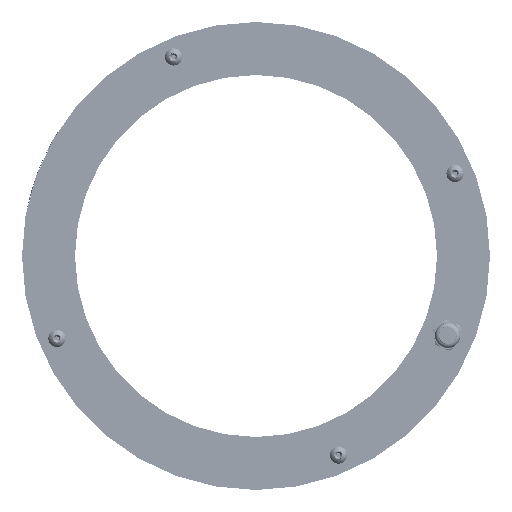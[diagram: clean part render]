
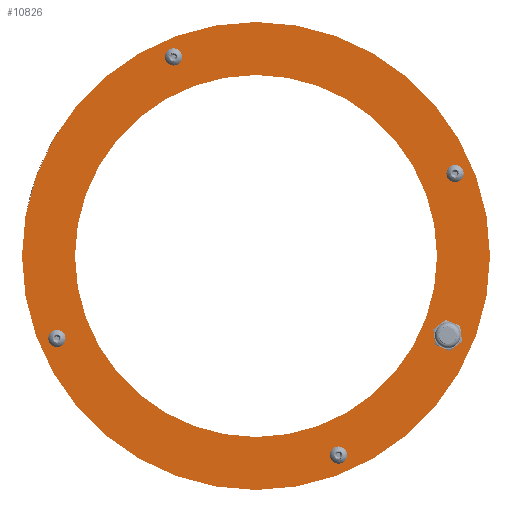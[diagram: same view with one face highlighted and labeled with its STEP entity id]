
A CAD part, front view. The second image highlights one B-rep face of the part: STEP entity #10826.
In plain terms, the highlighted planar face has unit normal (0, -1, 0).
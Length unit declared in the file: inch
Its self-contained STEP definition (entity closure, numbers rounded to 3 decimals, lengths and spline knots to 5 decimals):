
#537 = CIRCLE ( 'NONE', #7267, 4.0721 ) ;
#1016 = ORIENTED_EDGE ( 'NONE', *, *, #3004, .F. ) ;
#2303 = ORIENTED_EDGE ( 'NONE', *, *, #20368, .T. ) ;
#2395 = DIRECTION ( 'NONE',  ( 0., -1., 0. ) ) ;
#2760 = EDGE_CURVE ( 'NONE', #15414, #7817, #26251, .T. ) ;
#2803 = CIRCLE ( 'NONE', #27318, 0.06496 ) ;
#3004 = EDGE_CURVE ( 'NONE', #7817, #15414, #2803, .T. ) ;
#3154 = CIRCLE ( 'NONE', #32922, 0.06496 ) ;
#3193 = CARTESIAN_POINT ( 'NONE',  ( -1.43506, 0., 3.39959 ) ) ;
#3219 = AXIS2_PLACEMENT_3D ( 'NONE', #23197, #28914, #4151 ) ;
#3386 = CARTESIAN_POINT ( 'NONE',  ( 0., 0., 3.1496 ) ) ;
#3635 = DIRECTION ( 'NONE',  ( 0., -1., 0. ) ) ;
#3857 = CARTESIAN_POINT ( 'NONE',  ( 3.33594, 0., -1.38179 ) ) ;
#4068 = ORIENTED_EDGE ( 'NONE', *, *, #10045, .F. ) ;
#4076 = FACE_BOUND ( 'NONE', #22949, .T. ) ;
#4151 = DIRECTION ( 'NONE',  ( 0., 0., -1. ) ) ;
#4167 = EDGE_CURVE ( 'NONE', #4383, #35299, #537, .T. ) ;
#4383 = VERTEX_POINT ( 'NONE', #26197 ) ;
#4454 = VERTEX_POINT ( 'NONE', #21951 ) ;
#4534 = AXIS2_PLACEMENT_3D ( 'NONE', #19148, #13998, #21884 ) ;
#4593 = CIRCLE ( 'NONE', #7360, 3.1496 ) ;
#4751 = DIRECTION ( 'NONE',  ( 0., -1., 0. ) ) ;
#4769 = VERTEX_POINT ( 'NONE', #32893 ) ;
#4871 = CARTESIAN_POINT ( 'NONE',  ( 1.43506, 0., -3.46455 ) ) ;
#5392 = AXIS2_PLACEMENT_3D ( 'NONE', #22378, #8412, #19532 ) ;
#5421 = VERTEX_POINT ( 'NONE', #13861 ) ;
#5905 = CIRCLE ( 'NONE', #31001, 4.0721 ) ;
#5927 = CARTESIAN_POINT ( 'NONE',  ( 0., 0., 0. ) ) ;
#6148 = FACE_BOUND ( 'NONE', #12438, .T. ) ;
#6290 = ORIENTED_EDGE ( 'NONE', *, *, #4167, .T. ) ;
#6656 = CIRCLE ( 'NONE', #3219, 0.06496 ) ;
#6730 = AXIS2_PLACEMENT_3D ( 'NONE', #14260, #8510, #33299 ) ;
#7155 = DIRECTION ( 'NONE',  ( 0., -1., 0. ) ) ;
#7227 = CIRCLE ( 'NONE', #22542, 0.06496 ) ;
#7267 = AXIS2_PLACEMENT_3D ( 'NONE', #28680, #33797, #28438 ) ;
#7360 = AXIS2_PLACEMENT_3D ( 'NONE', #16416, #33178, #22116 ) ;
#7817 = VERTEX_POINT ( 'NONE', #12534 ) ;
#7833 = CARTESIAN_POINT ( 'NONE',  ( 1.43506, 0., -3.52951 ) ) ;
#7890 = ORIENTED_EDGE ( 'NONE', *, *, #2760, .F. ) ;
#7957 = CARTESIAN_POINT ( 'NONE',  ( 0., 0., 4.0721 ) ) ;
#8056 = DIRECTION ( 'NONE',  ( 0., 0., -1. ) ) ;
#8412 = DIRECTION ( 'NONE',  ( 0., -1., 0. ) ) ;
#8460 = DIRECTION ( 'NONE',  ( 0., -1., 0. ) ) ;
#8510 = DIRECTION ( 'NONE',  ( 0., -1., 0. ) ) ;
#8549 = ORIENTED_EDGE ( 'NONE', *, *, #19745, .F. ) ;
#8782 = CARTESIAN_POINT ( 'NONE',  ( 0., 0., -3.1496 ) ) ;
#9663 = CARTESIAN_POINT ( 'NONE',  ( 1.43506, 0., -3.46455 ) ) ;
#9845 = DIRECTION ( 'NONE',  ( 0., 0., -1. ) ) ;
#10045 = EDGE_CURVE ( 'NONE', #22944, #28834, #6656, .T. ) ;
#10497 = AXIS2_PLACEMENT_3D ( 'NONE', #13333, #2395, #8056 ) ;
#10555 = ORIENTED_EDGE ( 'NONE', *, *, #18288, .F. ) ;
#10677 = CARTESIAN_POINT ( 'NONE',  ( -3.46455, 0., -1.3701 ) ) ;
#10826 = ADVANCED_FACE ( 'NONE', ( #6148, #28774, #21518, #4076, #13418, #26214, #31739 ), #34962, .T. ) ;
#11284 = DIRECTION ( 'NONE',  ( 0., 0., -1. ) ) ;
#12401 = ORIENTED_EDGE ( 'NONE', *, *, #17599, .F. ) ;
#12438 = EDGE_LOOP ( 'NONE', ( #8549, #25148 ) ) ;
#12534 = CARTESIAN_POINT ( 'NONE',  ( 3.46455, 0., 1.50002 ) ) ;
#12632 = EDGE_LOOP ( 'NONE', ( #28462, #10555 ) ) ;
#13333 = CARTESIAN_POINT ( 'NONE',  ( -1.43506, 0., 3.46455 ) ) ;
#13369 = AXIS2_PLACEMENT_3D ( 'NONE', #29987, #30070, #32795 ) ;
#13418 = FACE_BOUND ( 'NONE', #20468, .T. ) ;
#13674 = DIRECTION ( 'NONE',  ( 0., 0., -1. ) ) ;
#13861 = CARTESIAN_POINT ( 'NONE',  ( 3.33594, 0., -1.54912 ) ) ;
#13887 = CARTESIAN_POINT ( 'NONE',  ( -3.46455, 0., -1.50002 ) ) ;
#13998 = DIRECTION ( 'NONE',  ( 0., -1., 0. ) ) ;
#14260 = CARTESIAN_POINT ( 'NONE',  ( 3.46455, 0., 1.43506 ) ) ;
#14430 = EDGE_LOOP ( 'NONE', ( #26051, #18017 ) ) ;
#15414 = VERTEX_POINT ( 'NONE', #32980 ) ;
#16186 = VERTEX_POINT ( 'NONE', #3386 ) ;
#16416 = CARTESIAN_POINT ( 'NONE',  ( 0., 0., 0. ) ) ;
#17599 = EDGE_CURVE ( 'NONE', #4454, #5421, #22760, .T. ) ;
#17960 = CIRCLE ( 'NONE', #18176, 0.06496 ) ;
#18017 = ORIENTED_EDGE ( 'NONE', *, *, #25854, .F. ) ;
#18176 = AXIS2_PLACEMENT_3D ( 'NONE', #9663, #7155, #26136 ) ;
#18288 = EDGE_CURVE ( 'NONE', #16186, #30496, #35077, .T. ) ;
#19148 = CARTESIAN_POINT ( 'NONE',  ( -1.43506, 0., 3.46455 ) ) ;
#19357 = CARTESIAN_POINT ( 'NONE',  ( 3.1496, 0., 0. ) ) ;
#19532 = DIRECTION ( 'NONE',  ( 0., 0., -1. ) ) ;
#19745 = EDGE_CURVE ( 'NONE', #32261, #4769, #7227, .T. ) ;
#20368 = EDGE_CURVE ( 'NONE', #35299, #4383, #5905, .T. ) ;
#20468 = EDGE_LOOP ( 'NONE', ( #32358, #12401 ) ) ;
#20640 = EDGE_CURVE ( 'NONE', #27614, #33447, #24664, .T. ) ;
#20791 = EDGE_LOOP ( 'NONE', ( #4068, #24491 ) ) ;
#21518 = FACE_BOUND ( 'NONE', #14430, .T. ) ;
#21884 = DIRECTION ( 'NONE',  ( 0., 0., -1. ) ) ;
#21951 = CARTESIAN_POINT ( 'NONE',  ( 3.33594, 0., -1.21447 ) ) ;
#21964 = DIRECTION ( 'NONE',  ( 0., 0., -1. ) ) ;
#22018 = DIRECTION ( 'NONE',  ( 0., -1., 0. ) ) ;
#22116 = DIRECTION ( 'NONE',  ( 0., 0., -1. ) ) ;
#22152 = DIRECTION ( 'NONE',  ( 0., -1., 0. ) ) ;
#22378 = CARTESIAN_POINT ( 'NONE',  ( 3.33594, 0., -1.38179 ) ) ;
#22542 = AXIS2_PLACEMENT_3D ( 'NONE', #4871, #4751, #9845 ) ;
#22543 = CARTESIAN_POINT ( 'NONE',  ( -1.43506, 0., 3.52951 ) ) ;
#22760 = CIRCLE ( 'NONE', #5392, 0.16732 ) ;
#22944 = VERTEX_POINT ( 'NONE', #13887 ) ;
#22949 = EDGE_LOOP ( 'NONE', ( #7890, #1016 ) ) ;
#23033 = EDGE_CURVE ( 'NONE', #30496, #16186, #4593, .T. ) ;
#23197 = CARTESIAN_POINT ( 'NONE',  ( -3.46455, 0., -1.43506 ) ) ;
#24207 = CARTESIAN_POINT ( 'NONE',  ( 3.46455, 0., 1.43506 ) ) ;
#24491 = ORIENTED_EDGE ( 'NONE', *, *, #31379, .F. ) ;
#24664 = CIRCLE ( 'NONE', #10497, 0.06496 ) ;
#25148 = ORIENTED_EDGE ( 'NONE', *, *, #25345, .F. ) ;
#25345 = EDGE_CURVE ( 'NONE', #4769, #32261, #17960, .T. ) ;
#25535 = CARTESIAN_POINT ( 'NONE',  ( -3.46455, 0., -1.43506 ) ) ;
#25854 = EDGE_CURVE ( 'NONE', #33447, #27614, #30719, .T. ) ;
#26051 = ORIENTED_EDGE ( 'NONE', *, *, #20640, .F. ) ;
#26131 = DIRECTION ( 'NONE',  ( 0., 0., -1. ) ) ;
#26136 = DIRECTION ( 'NONE',  ( 0., 0., -1. ) ) ;
#26197 = CARTESIAN_POINT ( 'NONE',  ( 0., 0., -4.0721 ) ) ;
#26214 = FACE_OUTER_BOUND ( 'NONE', #34767, .T. ) ;
#26251 = CIRCLE ( 'NONE', #6730, 0.06496 ) ;
#26341 = EDGE_CURVE ( 'NONE', #5421, #4454, #34930, .T. ) ;
#27318 = AXIS2_PLACEMENT_3D ( 'NONE', #24207, #22152, #11284 ) ;
#27614 = VERTEX_POINT ( 'NONE', #3193 ) ;
#28292 = AXIS2_PLACEMENT_3D ( 'NONE', #19357, #8460, #21964 ) ;
#28438 = DIRECTION ( 'NONE',  ( 0., 0., -1. ) ) ;
#28462 = ORIENTED_EDGE ( 'NONE', *, *, #23033, .F. ) ;
#28680 = CARTESIAN_POINT ( 'NONE',  ( 0., 0., 0. ) ) ;
#28749 = DIRECTION ( 'NONE',  ( 0., -1., 0. ) ) ;
#28774 = FACE_BOUND ( 'NONE', #20791, .T. ) ;
#28834 = VERTEX_POINT ( 'NONE', #10677 ) ;
#28914 = DIRECTION ( 'NONE',  ( 0., -1., 0. ) ) ;
#29987 = CARTESIAN_POINT ( 'NONE',  ( 0., 0., 0. ) ) ;
#30070 = DIRECTION ( 'NONE',  ( 0., -1., 0. ) ) ;
#30496 = VERTEX_POINT ( 'NONE', #8782 ) ;
#30719 = CIRCLE ( 'NONE', #4534, 0.06496 ) ;
#31001 = AXIS2_PLACEMENT_3D ( 'NONE', #5927, #22018, #13674 ) ;
#31379 = EDGE_CURVE ( 'NONE', #28834, #22944, #3154, .T. ) ;
#31739 = FACE_BOUND ( 'NONE', #12632, .T. ) ;
#32261 = VERTEX_POINT ( 'NONE', #7833 ) ;
#32358 = ORIENTED_EDGE ( 'NONE', *, *, #26341, .F. ) ;
#32795 = DIRECTION ( 'NONE',  ( 0., 0., -1. ) ) ;
#32893 = CARTESIAN_POINT ( 'NONE',  ( 1.43506, 0., -3.39959 ) ) ;
#32922 = AXIS2_PLACEMENT_3D ( 'NONE', #25535, #28749, #26131 ) ;
#32980 = CARTESIAN_POINT ( 'NONE',  ( 3.46455, 0., 1.3701 ) ) ;
#33178 = DIRECTION ( 'NONE',  ( 0., -1., 0. ) ) ;
#33299 = DIRECTION ( 'NONE',  ( 0., 0., -1. ) ) ;
#33447 = VERTEX_POINT ( 'NONE', #22543 ) ;
#33609 = DIRECTION ( 'NONE',  ( 0., 0., -1. ) ) ;
#33797 = DIRECTION ( 'NONE',  ( 0., -1., 0. ) ) ;
#34767 = EDGE_LOOP ( 'NONE', ( #6290, #2303 ) ) ;
#34930 = CIRCLE ( 'NONE', #35094, 0.16732 ) ;
#34962 = PLANE ( 'NONE',  #28292 ) ;
#35077 = CIRCLE ( 'NONE', #13369, 3.1496 ) ;
#35094 = AXIS2_PLACEMENT_3D ( 'NONE', #3857, #3635, #33609 ) ;
#35299 = VERTEX_POINT ( 'NONE', #7957 ) ;
